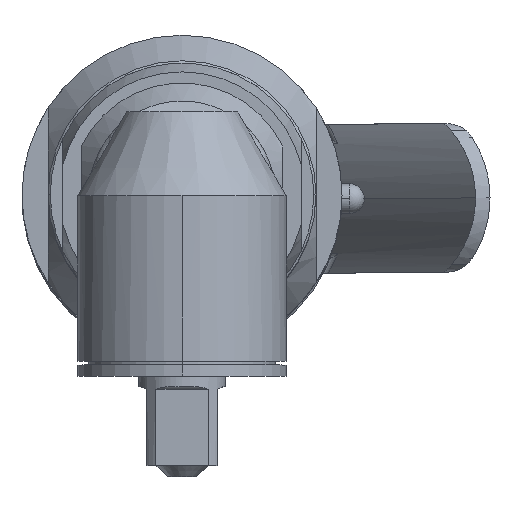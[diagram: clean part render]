
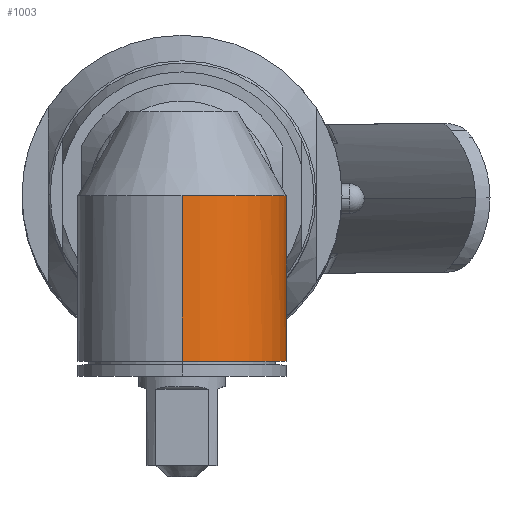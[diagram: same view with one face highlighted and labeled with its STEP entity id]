
A CAD part, top view. The second image highlights one B-rep face of the part: STEP entity #1003.
In plain terms, the highlighted cylindrical face has radius 14 mm (diameter 28 mm), a partial arc.
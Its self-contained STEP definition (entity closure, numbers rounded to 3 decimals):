
#943 = EDGE_LOOP ( 'NONE', ( #1004, #1008, #1011, #1014, #988, #991, #994 ) ) ;
#987 = VERTEX_POINT ( 'NONE', #16896 ) ;
#988 = ORIENTED_EDGE ( 'NONE', *, *, #989, .T. ) ;
#989 = EDGE_CURVE ( 'NONE', #987, #990, #16894, .T. ) ;
#990 = VERTEX_POINT ( 'NONE', #16895 ) ;
#991 = ORIENTED_EDGE ( 'NONE', *, *, #992, .F. ) ;
#992 = EDGE_CURVE ( 'NONE', #993, #990, #16876, .T. ) ;
#993 = VERTEX_POINT ( 'NONE', #16870 ) ;
#994 = ORIENTED_EDGE ( 'NONE', *, *, #995, .F. ) ;
#995 = EDGE_CURVE ( 'NONE', #1006, #993, #16952, .T. ) ;
#1003 = ADVANCED_FACE ( 'NONE', ( #16925 ), #17000, .T. ) ;
#1004 = ORIENTED_EDGE ( 'NONE', *, *, #1005, .T. ) ;
#1005 = EDGE_CURVE ( 'NONE', #1006, #1007, #16990, .T. ) ;
#1006 = VERTEX_POINT ( 'NONE', #16985 ) ;
#1007 = VERTEX_POINT ( 'NONE', #16984 ) ;
#1008 = ORIENTED_EDGE ( 'NONE', *, *, #1009, .T. ) ;
#1009 = EDGE_CURVE ( 'NONE', #1007, #1010, #16983, .T. ) ;
#1010 = VERTEX_POINT ( 'NONE', #16979 ) ;
#1011 = ORIENTED_EDGE ( 'NONE', *, *, #1012, .T. ) ;
#1012 = EDGE_CURVE ( 'NONE', #1010, #1013, #16972, .T. ) ;
#1013 = VERTEX_POINT ( 'NONE', #16977 ) ;
#1014 = ORIENTED_EDGE ( 'NONE', *, *, #1015, .F. ) ;
#1015 = EDGE_CURVE ( 'NONE', #987, #1013, #16975, .T. ) ;
#16849 = CARTESIAN_POINT ( 'NONE',  ( 11.972, -3.611, -7.26 ) ) ;
#16850 = CARTESIAN_POINT ( 'NONE',  ( 11.876, -3.914, -7.417 ) ) ;
#16851 = CARTESIAN_POINT ( 'NONE',  ( 11.559, -4.799, -7.908 ) ) ;
#16852 = CARTESIAN_POINT ( 'NONE',  ( 11.31, -5.357, -8.264 ) ) ;
#16853 = CARTESIAN_POINT ( 'NONE',  ( 10.736, -6.432, -8.998 ) ) ;
#16855 = CARTESIAN_POINT ( 'NONE',  ( 10.413, -6.941, -9.372 ) ) ;
#16856 = CARTESIAN_POINT ( 'NONE',  ( 9.701, -7.906, -10.107 ) ) ;
#16857 = CARTESIAN_POINT ( 'NONE',  ( 9.31, -8.363, -10.471 ) ) ;
#16858 = CARTESIAN_POINT ( 'NONE',  ( 8.666, -9.014, -10.999 ) ) ;
#16860 = CARTESIAN_POINT ( 'NONE',  ( 8.441, -9.225, -11.173 ) ) ;
#16861 = CARTESIAN_POINT ( 'NONE',  ( 7.971, -9.634, -11.513 ) ) ;
#16862 = CARTESIAN_POINT ( 'NONE',  ( 7.725, -9.833, -11.68 ) ) ;
#16863 = CARTESIAN_POINT ( 'NONE',  ( 6.964, -10.399, -12.16 ) ) ;
#16865 = CARTESIAN_POINT ( 'NONE',  ( 6.424, -10.743, -12.455 ) ) ;
#16870 = CARTESIAN_POINT ( 'NONE',  ( 0., -0.258, 14. ) ) ;
#16872 = DIRECTION ( 'NONE',  ( 0., 0., 1. ) ) ;
#16873 = DIRECTION ( 'NONE',  ( 0., 1., 0. ) ) ;
#16874 = CARTESIAN_POINT ( 'NONE',  ( 0., -0.258, 0. ) ) ;
#16875 = AXIS2_PLACEMENT_3D ( 'NONE', #16874, #16873, #16872 ) ;
#16876 = CIRCLE ( 'NONE', #16875, 14. ) ;
#16882 = CARTESIAN_POINT ( 'NONE',  ( 5.558, -11.201, -12.853 ) ) ;
#16883 = CARTESIAN_POINT ( 'NONE',  ( 5.26, -11.345, -12.979 ) ) ;
#16884 = CARTESIAN_POINT ( 'NONE',  ( 4.642, -11.611, -13.212 ) ) ;
#16886 = CARTESIAN_POINT ( 'NONE',  ( 4.323, -11.734, -13.32 ) ) ;
#16888 = CARTESIAN_POINT ( 'NONE',  ( 4., -11.843, -13.416 ) ) ;
#16894 = B_SPLINE_CURVE_WITH_KNOTS ( 'NONE', 3,
 ( #16888, #16886, #16884, #16883, #16882, #16865, #16863, #16862, #16861, #16860, #16858, #16857, #16856, #16855, #16853, #16852, #16851, #16850, #16849, #16963, #16962, #16961, #16959, #16957, #16955, #16953 ),
 .UNSPECIFIED., .F., .F.,
 ( 4, 2, 2, 2, 2, 2, 2, 2, 2, 2, 2, 2, 4 ),
 ( 0.025, 0.026, 0.027, 0.029, 0.03, 0.032, 0.034, 0.036, 0.038, 0.039, 0.04, 0.041, 0.042 ),
 .UNSPECIFIED. ) ;
#16895 = CARTESIAN_POINT ( 'NONE',  ( 12.497, -0.258, -6.31 ) ) ;
#16896 = CARTESIAN_POINT ( 'NONE',  ( 4., -11.843, -13.416 ) ) ;
#16925 = FACE_OUTER_BOUND ( 'NONE', #943, .T. ) ;
#16949 = DIRECTION ( 'NONE',  ( 0., 1., 0. ) ) ;
#16950 = VECTOR ( 'NONE', #16949, 1000. ) ;
#16951 = CARTESIAN_POINT ( 'NONE',  ( 0., 18.453, 14. ) ) ;
#16952 = LINE ( 'NONE', #16951, #16950 ) ;
#16953 = CARTESIAN_POINT ( 'NONE',  ( 12.497, -0.258, -6.31 ) ) ;
#16955 = CARTESIAN_POINT ( 'NONE',  ( 12.49, -0.617, -6.325 ) ) ;
#16957 = CARTESIAN_POINT ( 'NONE',  ( 12.467, -0.974, -6.371 ) ) ;
#16959 = CARTESIAN_POINT ( 'NONE',  ( 12.393, -1.666, -6.512 ) ) ;
#16961 = CARTESIAN_POINT ( 'NONE',  ( 12.343, -2.002, -6.608 ) ) ;
#16962 = CARTESIAN_POINT ( 'NONE',  ( 12.218, -2.66, -6.836 ) ) ;
#16963 = CARTESIAN_POINT ( 'NONE',  ( 12.143, -2.984, -6.97 ) ) ;
#16964 = CARTESIAN_POINT ( 'NONE',  ( 4., -18.337, -13.416 ) ) ;
#16965 = CARTESIAN_POINT ( 'NONE',  ( 2.7, -18.113, -13.804 ) ) ;
#16966 = CARTESIAN_POINT ( 'NONE',  ( 1.357, -18., -14. ) ) ;
#16968 = CARTESIAN_POINT ( 'NONE',  ( 0., -18., -14. ) ) ;
#16972 =( BOUNDED_CURVE ( )  B_SPLINE_CURVE ( 3, ( #16968, #16966, #16965, #16964 ),
 .UNSPECIFIED., .F., .F. ) 
 B_SPLINE_CURVE_WITH_KNOTS ( ( 4, 4 ),
 ( 0., 0.29 ),
 .UNSPECIFIED. ) 
 CURVE ( )  GEOMETRIC_REPRESENTATION_ITEM ( )  RATIONAL_B_SPLINE_CURVE ( ( 1., 0.993, 0.993, 1. ) ) 
 REPRESENTATION_ITEM ( '' )  );
#16975 = LINE ( 'NONE', #17069, #17067 ) ;
#16977 = CARTESIAN_POINT ( 'NONE',  ( 4., -18.337, -13.416 ) ) ;
#16979 = CARTESIAN_POINT ( 'NONE',  ( 0., -18., -14. ) ) ;
#16980 = DIRECTION ( 'NONE',  ( 0., 1., 0. ) ) ;
#16981 = VECTOR ( 'NONE', #16980, 1000. ) ;
#16982 = CARTESIAN_POINT ( 'NONE',  ( 0., 18.453, -14. ) ) ;
#16983 = LINE ( 'NONE', #16982, #16981 ) ;
#16984 = CARTESIAN_POINT ( 'NONE',  ( 0., -22.5, -14. ) ) ;
#16985 = CARTESIAN_POINT ( 'NONE',  ( 0., -22.5, 14. ) ) ;
#16987 = DIRECTION ( 'NONE',  ( 0., 0., 1. ) ) ;
#16988 = DIRECTION ( 'NONE',  ( 0., 1., 0. ) ) ;
#16989 = AXIS2_PLACEMENT_3D ( 'NONE', #17002, #16988, #16987 ) ;
#16990 = CIRCLE ( 'NONE', #16989, 14. ) ;
#16995 = DIRECTION ( 'NONE',  ( 0., 0., 1. ) ) ;
#16996 = DIRECTION ( 'NONE',  ( 0., 1., 0. ) ) ;
#16997 = CARTESIAN_POINT ( 'NONE',  ( 0., 18.453, 0. ) ) ;
#16998 = AXIS2_PLACEMENT_3D ( 'NONE', #16997, #16996, #16995 ) ;
#17000 = CYLINDRICAL_SURFACE ( 'NONE', #16998, 14. ) ;
#17002 = CARTESIAN_POINT ( 'NONE',  ( 0., -22.5, 0. ) ) ;
#17066 = DIRECTION ( 'NONE',  ( 0., -1., 0. ) ) ;
#17067 = VECTOR ( 'NONE', #17066, 1000. ) ;
#17069 = CARTESIAN_POINT ( 'NONE',  ( 4., 18.453, -13.416 ) ) ;
